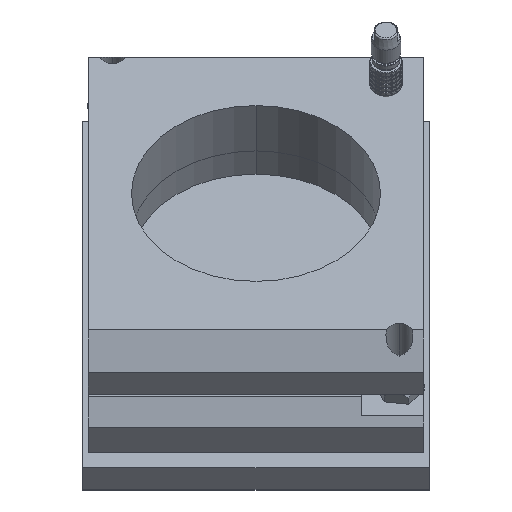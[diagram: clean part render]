
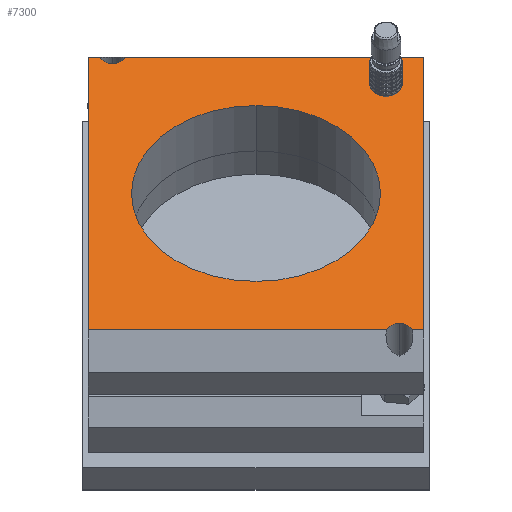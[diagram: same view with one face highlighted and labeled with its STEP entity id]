
A CAD part, top view. The second image highlights one B-rep face of the part: STEP entity #7300.
In plain terms, the highlighted planar face has unit normal (0, 0.707, 0.707).
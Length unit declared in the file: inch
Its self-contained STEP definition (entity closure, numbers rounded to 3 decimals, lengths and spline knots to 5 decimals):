
#276 = VERTEX_POINT ( 'NONE', #15762 ) ;
#970 = AXIS2_PLACEMENT_3D ( 'NONE', #8886, #13878, #33146 ) ;
#1317 = LINE ( 'NONE', #24730, #30896 ) ;
#1358 = CIRCLE ( 'NONE', #970, 1.4375 ) ;
#1411 = LINE ( 'NONE', #23555, #17167 ) ;
#1678 = DIRECTION ( 'NONE',  ( 1., 0., 0. ) ) ;
#1907 = VERTEX_POINT ( 'NONE', #12917 ) ;
#2110 = VECTOR ( 'NONE', #14423, 39.37008 ) ;
#2202 = ORIENTED_EDGE ( 'NONE', *, *, #30961, .T. ) ;
#2213 = VERTEX_POINT ( 'NONE', #29501 ) ;
#2475 = EDGE_CURVE ( 'Defeatured_6_15+Defeatured_6_6+Defeatured_6_8+Defeatured_6_8', #21742, #276, #18147, .T. ) ;
#3002 = DIRECTION ( 'NONE',  ( 0., 0.707, 0.707 ) ) ;
#3473 = VERTEX_POINT ( 'NONE', #15840 ) ;
#3823 = ORIENTED_EDGE ( 'NONE', *, *, #8497, .F. ) ;
#3852 = DIRECTION ( 'NONE',  ( 0., 0.707, -0.707 ) ) ;
#4089 = DIRECTION ( 'NONE',  ( 0., 0.707, 0.707 ) ) ;
#4135 = AXIS2_PLACEMENT_3D ( 'NONE', #32424, #30165, #35564 ) ;
#4388 = AXIS2_PLACEMENT_3D ( 'NONE', #20453, #4089, #34195 ) ;
#4528 = LINE ( 'NONE', #17963, #16941 ) ;
#4697 = CIRCLE ( 'NONE', #26181, 0.15625 ) ;
#4821 = ORIENTED_EDGE ( 'NONE', *, *, #4919, .T. ) ;
#4919 = EDGE_CURVE ( 'Defeatured_6_6+Defeatured_6_7+Defeatured_6_2+Defeatured_6_16', #15607, #1907, #19667, .T. ) ;
#5246 = CARTESIAN_POINT ( 'NONE',  ( 1.9375, -0.15968, 2.99412 ) ) ;
#5668 = EDGE_CURVE ( 'Defeatured_6_6+Defeatured_6_8+Defeatured_6_15+Defeatured_6_2', #21742, #20441, #33384, .T. ) ;
#5675 = ORIENTED_EDGE ( 'NONE', *, *, #8279, .F. ) ;
#6267 = ORIENTED_EDGE ( 'NONE', *, *, #2475, .F. ) ;
#6834 = EDGE_LOOP ( 'NONE', ( #27078, #2202 ) ) ;
#7119 = CARTESIAN_POINT ( 'NONE',  ( 1.656, -0.08525, 2.9197 ) ) ;
#7300 = ADVANCED_FACE ( 'Defeatured_6_6', ( #30771, #29909 ), #26136, .T. ) ;
#7584 = DIRECTION ( 'NONE',  ( 0., 0.707, 0.707 ) ) ;
#7766 = VERTEX_POINT ( 'NONE', #25169 ) ;
#8045 = AXIS2_PLACEMENT_3D ( 'NONE', #18208, #29398, #15295 ) ;
#8223 = AXIS2_PLACEMENT_3D ( 'NONE', #23239, #28778, #15062 ) ;
#8279 = EDGE_CURVE ( 'Defeatured_6_16+Defeatured_6_6+Defeatured_6_7+Defeatured_6_7', #10235, #28653, #4697, .T. ) ;
#8497 = EDGE_CURVE ( 'Defeatured_6_16+Defeatured_6_6+Defeatured_6_7+Defeatured_6_7', #28653, #1907, #24875, .T. ) ;
#8886 = CARTESIAN_POINT ( 'NONE',  ( 0., 1.41717, 1.41727 ) ) ;
#10235 = VERTEX_POINT ( 'NONE', #19533 ) ;
#11462 = AXIS2_PLACEMENT_3D ( 'NONE', #33429, #3002, #25260 ) ;
#12350 = VECTOR ( 'NONE', #28195, 39.37008 ) ;
#12917 = CARTESIAN_POINT ( 'NONE',  ( 1.50831, -0.15968, 2.99412 ) ) ;
#13697 = CARTESIAN_POINT ( 'NONE',  ( -1.9375, 2.99402, -0.15958 ) ) ;
#13878 = DIRECTION ( 'NONE',  ( 0., -0.707, -0.707 ) ) ;
#14423 = DIRECTION ( 'NONE',  ( -1., 0., 0. ) ) ;
#14548 = CARTESIAN_POINT ( 'NONE',  ( -1.9375, 2.99402, -0.15958 ) ) ;
#14675 = CARTESIAN_POINT ( 'NONE',  ( -1.50831, 2.99402, -0.15958 ) ) ;
#15062 = DIRECTION ( 'NONE',  ( 0., -0.707, 0.707 ) ) ;
#15295 = DIRECTION ( 'NONE',  ( 0., 0.707, -0.707 ) ) ;
#15607 = VERTEX_POINT ( 'NONE', #20594 ) ;
#15738 = VECTOR ( 'NONE', #33500, 39.37008 ) ;
#15762 = CARTESIAN_POINT ( 'NONE',  ( -1.656, 2.9196, -0.08515 ) ) ;
#15840 = CARTESIAN_POINT ( 'NONE',  ( 1.9375, 2.99402, -0.15958 ) ) ;
#16302 = EDGE_CURVE ( 'Defeatured_6_6+Defeatured_6_7+Defeatured_6_16+Defeatured_6_4', #10235, #28213, #1411, .T. ) ;
#16923 = CARTESIAN_POINT ( 'NONE',  ( -1.9375, 3.24151, -0.40706 ) ) ;
#16941 = VECTOR ( 'NONE', #3852, 39.37008 ) ;
#17167 = VECTOR ( 'NONE', #1678, 39.37008 ) ;
#17963 = CARTESIAN_POINT ( 'NONE',  ( 1.9375, 3.24151, -0.40706 ) ) ;
#18147 = CIRCLE ( 'NONE', #11462, 0.15625 ) ;
#18208 = CARTESIAN_POINT ( 'NONE',  ( 0., 1.41717, 1.41727 ) ) ;
#18304 = CARTESIAN_POINT ( 'NONE',  ( -1.80369, 2.99402, -0.15958 ) ) ;
#19136 = EDGE_CURVE ( 'Defeatured_6_15+Defeatured_6_6+Defeatured_6_8+Defeatured_6_8', #276, #24380, #32518, .T. ) ;
#19252 = EDGE_CURVE ( 'Defeatured_6_6+Defeatured_6_18+Defeatured_6_18+Defeatured_6_18', #7766, #2213, #27740, .T. ) ;
#19420 = DIRECTION ( 'NONE',  ( -1., 0., 0. ) ) ;
#19533 = CARTESIAN_POINT ( 'NONE',  ( 1.80369, -0.15968, 2.99412 ) ) ;
#19667 = LINE ( 'NONE', #28326, #12350 ) ;
#20441 = VERTEX_POINT ( 'NONE', #13697 ) ;
#20453 = CARTESIAN_POINT ( 'NONE',  ( -1.656, 3.03008, -0.19564 ) ) ;
#20594 = CARTESIAN_POINT ( 'NONE',  ( -1.9375, -0.15968, 2.99412 ) ) ;
#21190 = EDGE_LOOP ( 'NONE', ( #5675, #34457, #23720, #22110, #31443, #6267, #30247, #22199, #4821, #3823 ) ) ;
#21742 = VERTEX_POINT ( 'NONE', #18304 ) ;
#22110 = ORIENTED_EDGE ( 'NONE', *, *, #32007, .T. ) ;
#22199 = ORIENTED_EDGE ( 'NONE', *, *, #32993, .T. ) ;
#23045 = LINE ( 'NONE', #16923, #15738 ) ;
#23239 = CARTESIAN_POINT ( 'NONE',  ( -1.9375, -0.40716, 3.24161 ) ) ;
#23555 = CARTESIAN_POINT ( 'NONE',  ( 1.9375, -0.15968, 2.99412 ) ) ;
#23720 = ORIENTED_EDGE ( 'NONE', *, *, #35174, .T. ) ;
#24022 = CARTESIAN_POINT ( 'NONE',  ( 1.656, -0.19574, 3.03018 ) ) ;
#24380 = VERTEX_POINT ( 'NONE', #14675 ) ;
#24730 = CARTESIAN_POINT ( 'NONE',  ( -1.9375, 2.99402, -0.15958 ) ) ;
#24875 = CIRCLE ( 'NONE', #4135, 0.15625 ) ;
#25169 = CARTESIAN_POINT ( 'NONE',  ( 0., 2.43364, 0.40081 ) ) ;
#25260 = DIRECTION ( 'NONE',  ( 0., -0.707, 0.707 ) ) ;
#26136 = PLANE ( 'NONE',  #8223 ) ;
#26181 = AXIS2_PLACEMENT_3D ( 'NONE', #24022, #7584, #26786 ) ;
#26786 = DIRECTION ( 'NONE',  ( 0., -0.707, 0.707 ) ) ;
#27078 = ORIENTED_EDGE ( 'NONE', *, *, #19252, .T. ) ;
#27740 = CIRCLE ( 'NONE', #8045, 1.4375 ) ;
#28195 = DIRECTION ( 'NONE',  ( 1., 0., 0. ) ) ;
#28213 = VERTEX_POINT ( 'NONE', #5246 ) ;
#28326 = CARTESIAN_POINT ( 'NONE',  ( 1.9375, -0.15968, 2.99412 ) ) ;
#28653 = VERTEX_POINT ( 'NONE', #7119 ) ;
#28778 = DIRECTION ( 'NONE',  ( 0., 0.707, 0.707 ) ) ;
#29398 = DIRECTION ( 'NONE',  ( 0., -0.707, -0.707 ) ) ;
#29501 = CARTESIAN_POINT ( 'NONE',  ( 0., 0.40071, 2.43374 ) ) ;
#29909 = FACE_BOUND ( 'NONE', #6834, .T. ) ;
#30165 = DIRECTION ( 'NONE',  ( 0., 0.707, 0.707 ) ) ;
#30247 = ORIENTED_EDGE ( 'NONE', *, *, #5668, .T. ) ;
#30771 = FACE_OUTER_BOUND ( 'NONE', #21190, .T. ) ;
#30896 = VECTOR ( 'NONE', #19420, 39.37008 ) ;
#30961 = EDGE_CURVE ( 'Defeatured_6_6+Defeatured_6_18+Defeatured_6_18+Defeatured_6_18', #2213, #7766, #1358, .T. ) ;
#31443 = ORIENTED_EDGE ( 'NONE', *, *, #19136, .F. ) ;
#32007 = EDGE_CURVE ( 'Defeatured_6_6+Defeatured_6_8+Defeatured_6_4+Defeatured_6_15', #3473, #24380, #1317, .T. ) ;
#32424 = CARTESIAN_POINT ( 'NONE',  ( 1.656, -0.19574, 3.03018 ) ) ;
#32518 = CIRCLE ( 'NONE', #4388, 0.15625 ) ;
#32993 = EDGE_CURVE ( 'Defeatured_6_6+Defeatured_6_2+Defeatured_6_8+Defeatured_6_7', #20441, #15607, #23045, .T. ) ;
#33146 = DIRECTION ( 'NONE',  ( 0., 0.707, -0.707 ) ) ;
#33384 = LINE ( 'NONE', #14548, #2110 ) ;
#33429 = CARTESIAN_POINT ( 'NONE',  ( -1.656, 3.03008, -0.19564 ) ) ;
#33500 = DIRECTION ( 'NONE',  ( 0., -0.707, 0.707 ) ) ;
#34195 = DIRECTION ( 'NONE',  ( 0., -0.707, 0.707 ) ) ;
#34457 = ORIENTED_EDGE ( 'NONE', *, *, #16302, .T. ) ;
#35174 = EDGE_CURVE ( 'Defeatured_6_6+Defeatured_6_4+Defeatured_6_7+Defeatured_6_8', #28213, #3473, #4528, .T. ) ;
#35564 = DIRECTION ( 'NONE',  ( 0., -0.707, 0.707 ) ) ;
